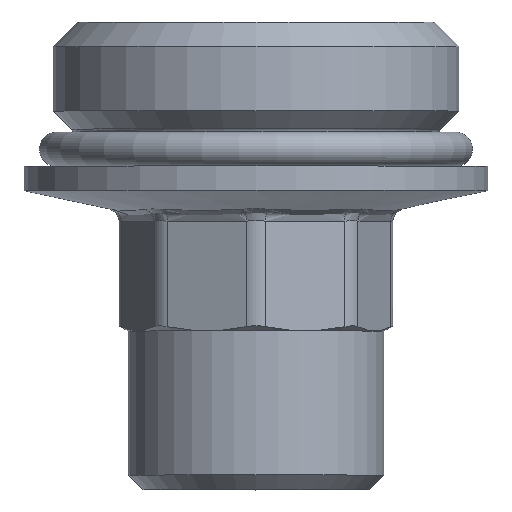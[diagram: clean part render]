
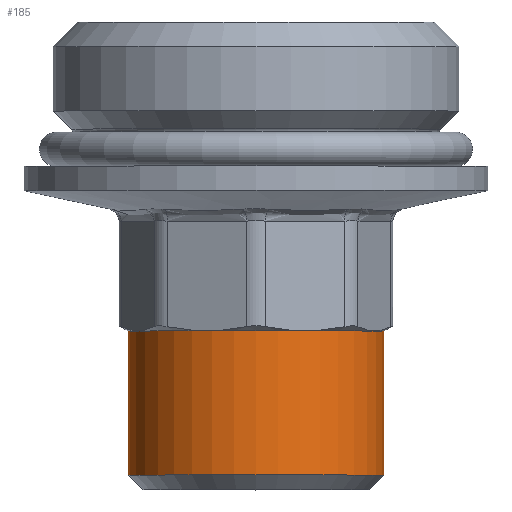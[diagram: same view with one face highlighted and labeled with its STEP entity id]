
A CAD part, top view. The second image highlights one B-rep face of the part: STEP entity #185.
In plain terms, the highlighted cylindrical face has radius 10.477 mm (diameter 20.955 mm), a full revolution.
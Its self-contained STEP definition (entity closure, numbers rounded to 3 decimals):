
#185=ADVANCED_FACE('',(#337,#339),#341,.T.);
#337=FACE_OUTER_BOUND('',#338,.T.);
#338=EDGE_LOOP('',(#1729));
#339=FACE_OUTER_BOUND('',#340,.T.);
#340=EDGE_LOOP('',(#1730));
#341=CYLINDRICAL_SURFACE('',#342,10.478);
#342=AXIS2_PLACEMENT_3D('',#343,#344,#345);
#343=CARTESIAN_POINT('',(0.,-11.5,0.));
#344=DIRECTION('',(0.,-1.,0.));
#345=DIRECTION('',(1.,0.,0.));
#1729=ORIENTED_EDGE('',*,*,#1927,.T.);
#1730=ORIENTED_EDGE('',*,*,#1925,.F.);
#1925=EDGE_CURVE('',#2032,#2032,#2033,.T.);
#1927=EDGE_CURVE('',#2036,#2036,#2037,.T.);
#2032=VERTEX_POINT('',#2220);
#2033=CIRCLE('',#2221,10.478);
#2036=VERTEX_POINT('',#2230);
#2037=CIRCLE('',#2231,10.478);
#2220=CARTESIAN_POINT('',(10.478,-23.3,0.));
#2221=AXIS2_PLACEMENT_3D('',#2222,#2223,#2224);
#2222=CARTESIAN_POINT('',(0.,-23.3,0.));
#2223=DIRECTION('',(0.,-1.,0.));
#2224=DIRECTION('',(1.,0.,0.));
#2230=CARTESIAN_POINT('',(10.478,-11.5,0.));
#2231=AXIS2_PLACEMENT_3D('',#2232,#2233,#2234);
#2232=CARTESIAN_POINT('',(0.,-11.5,0.));
#2233=DIRECTION('',(0.,-1.,0.));
#2234=DIRECTION('',(1.,0.,0.));
